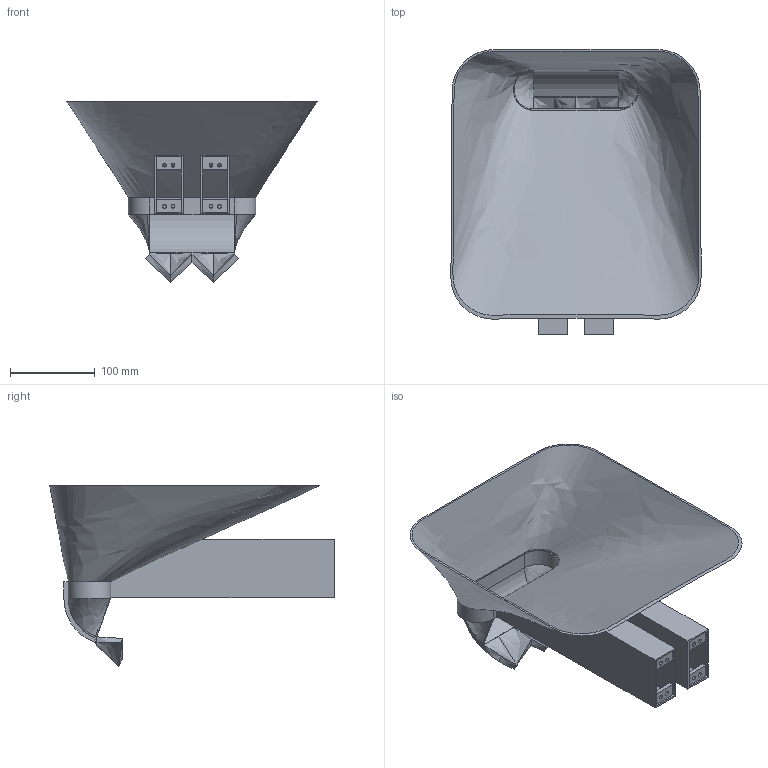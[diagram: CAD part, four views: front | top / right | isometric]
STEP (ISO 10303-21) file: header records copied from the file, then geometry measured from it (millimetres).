
FILE_DESCRIPTION(/* description */ (''),/* implementation_level */ '2;1');
FILE_NAME(/* name */ 'Hopper_withServo mounts.step',/* time_stamp */ '2026-02-22T12:49:45+05:30',/* author */ (''),/* organization */ (''),/* preprocessor_version */ 'ST-DEVELOPER v20.1',/* originating_system */ 'Autodesk Translation Framework v14.24.0.0',/* authorisation */ '');
FILE_SCHEMA (('AUTOMOTIVE_DESIGN { 1 0 10303 214 3 1 1 }'));
Length unit declared in the file: millimetre
Products named in the file (1): Hopper_withServo mounts
Bounding box: 294.66 x 335.38 x 213.16 mm (x, y, z)
Volume: 410124.5 mm3; surface area: 472608.2 mm2
Topology: 1 solids, 1 shells, 115 faces, 304 edges, 189 vertices
Faces by surface type: plane 62, bspline 39, cylinder 14
Full cylindrical faces by diameter (mm): 4.5 x8
Entity records: 7320 total; most frequent: CARTESIAN_POINT 4638, ORIENTED_EDGE 600, DIRECTION 426, EDGE_CURVE 300, LINE 204, VECTOR 204, VERTEX_POINT 189, EDGE_LOOP 139
